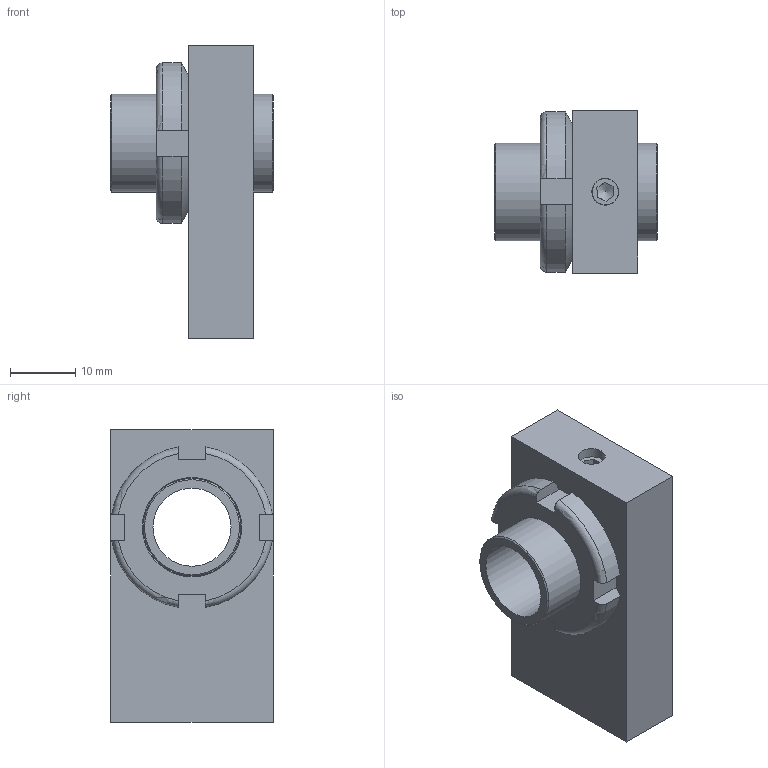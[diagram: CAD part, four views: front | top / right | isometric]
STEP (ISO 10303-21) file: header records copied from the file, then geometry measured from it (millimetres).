
FILE_DESCRIPTION(/* description */ (''),/* implementation_level */ '2;1');
FILE_NAME(/* name */ 'C:\Local Work Area\Progetti\AP\CALIBRI\03 Portacomparatore\03.55-A.stp',/* time_stamp */ '2015-04-01T09:35:52+02:00',/* author */ ('CAD5'),/* organization */ (''),/* preprocessor_version */ 'ST-DEVELOPER v15.2',/* originating_system */ 'Autodesk Inventor 2014',/* authorisation */ '');
FILE_SCHEMA (('AUTOMOTIVE_DESIGN { 1 0 10303 214 3 1 1 }'));
Length unit declared in the file: millimetre
Products named in the file (5): 03.57A; 03.65; Ghiera SKF M15x1 KM_2; VITE STEI M5x6 UNI5923; 03.55-A
Bounding box: 25 x 25 x 45 mm (x, y, z)
Volume: 12307.5 mm3; surface area: 7577.8 mm2
Topology: 4 solids, 4 shells, 59 faces, 146 edges, 95 vertices
Faces by surface type: plane 30, cone 14, cylinder 11, torus 4
Full cylindrical faces by diameter (mm): 4.134 x1, 4.917 x1, 5 x1, 12 x1, 13.917 x1, 15 x2
Entity records: 1813 total; most frequent: CARTESIAN_POINT 431, DIRECTION 266, ORIENTED_EDGE 248, EDGE_CURVE 124, AXIS2_PLACEMENT_3D 105, VERTEX_POINT 90, EDGE_LOOP 84, ADVANCED_FACE 59
